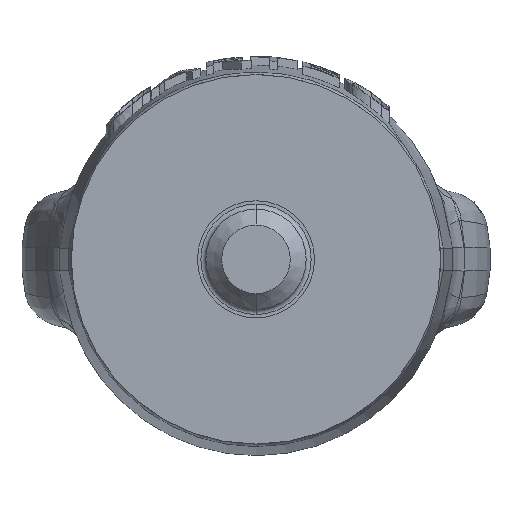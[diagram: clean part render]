
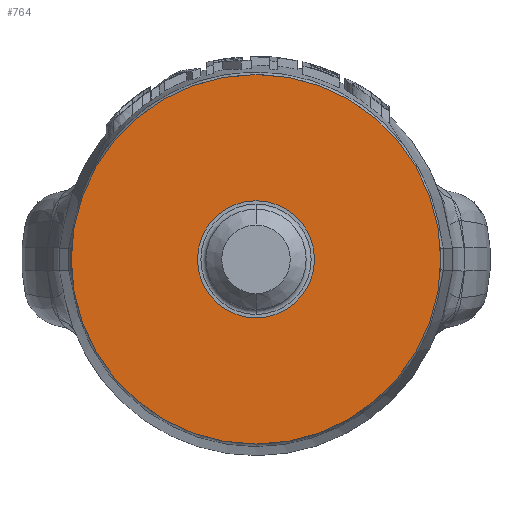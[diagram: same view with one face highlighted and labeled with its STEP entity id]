
A CAD part, front view. The second image highlights one B-rep face of the part: STEP entity #764.
In plain terms, the highlighted planar face has unit normal (0, -1, 0).
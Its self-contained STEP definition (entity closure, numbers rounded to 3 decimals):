
#764=ADVANCED_FACE('',(#1521,#1522),#1523,.F.);
#1521=FACE_OUTER_BOUND('',#6549,.T.);
#1522=FACE_BOUND('',#6550,.T.);
#1523=PLANE('',#6551);
#6549=EDGE_LOOP('',(#8418,#8419));
#6550=EDGE_LOOP('',(#8420,#8421));
#6551=AXIS2_PLACEMENT_3D('',#8422,#8423,#8424);
#8418=ORIENTED_EDGE('',*,*,#9298,.T.);
#8419=ORIENTED_EDGE('',*,*,#9288,.T.);
#8420=ORIENTED_EDGE('',*,*,#9291,.T.);
#8421=ORIENTED_EDGE('',*,*,#9296,.T.);
#8422=CARTESIAN_POINT('',(0.,-38.5,0.0));
#8423=DIRECTION('',(0.0,1.0,0.0));
#8424=DIRECTION('',(1.0,0.0,-0.0));
#9288=EDGE_CURVE('',#10565,#10569,#10571,.T.);
#9291=EDGE_CURVE('',#10576,#10573,#10577,.T.);
#9296=EDGE_CURVE('',#10573,#10576,#10583,.T.);
#9298=EDGE_CURVE('',#10569,#10565,#10585,.T.);
#10565=VERTEX_POINT('',#16745);
#10569=VERTEX_POINT('',#16750);
#10571=CIRCLE('',#16753,22.109);
#10573=VERTEX_POINT('',#16755);
#10576=VERTEX_POINT('',#16759);
#10577=CIRCLE('',#16760,7.);
#10583=CIRCLE('',#16767,7.);
#10585=CIRCLE('',#16769,22.109);
#16745=CARTESIAN_POINT('',(-22.109,-38.5,0.));
#16750=CARTESIAN_POINT('',(22.109,-38.5,0.));
#16753=AXIS2_PLACEMENT_3D('',#17498,#17499,#17500);
#16755=CARTESIAN_POINT('',(-7.,-38.5,0.));
#16759=CARTESIAN_POINT('',(7.,-38.5,0.));
#16760=AXIS2_PLACEMENT_3D('',#17502,#17503,#17504);
#16767=AXIS2_PLACEMENT_3D('',#17512,#17513,#17514);
#16769=AXIS2_PLACEMENT_3D('',#17515,#17516,#17517);
#17498=CARTESIAN_POINT('',(0.0,-38.5,0.0));
#17499=DIRECTION('',(0.0,-1.0,0.0));
#17500=DIRECTION('',(-1.0,0.0,0.));
#17502=CARTESIAN_POINT('',(0.0,-38.5,0.0));
#17503=DIRECTION('',(0.0,1.0,0.0));
#17504=DIRECTION('',(-1.0,0.0,0.));
#17512=CARTESIAN_POINT('',(0.0,-38.5,0.0));
#17513=DIRECTION('',(0.0,1.0,0.0));
#17514=DIRECTION('',(-1.0,0.0,0.));
#17515=CARTESIAN_POINT('',(0.0,-38.5,0.0));
#17516=DIRECTION('',(0.0,-1.0,0.0));
#17517=DIRECTION('',(-1.0,0.0,0.));
